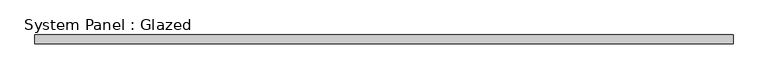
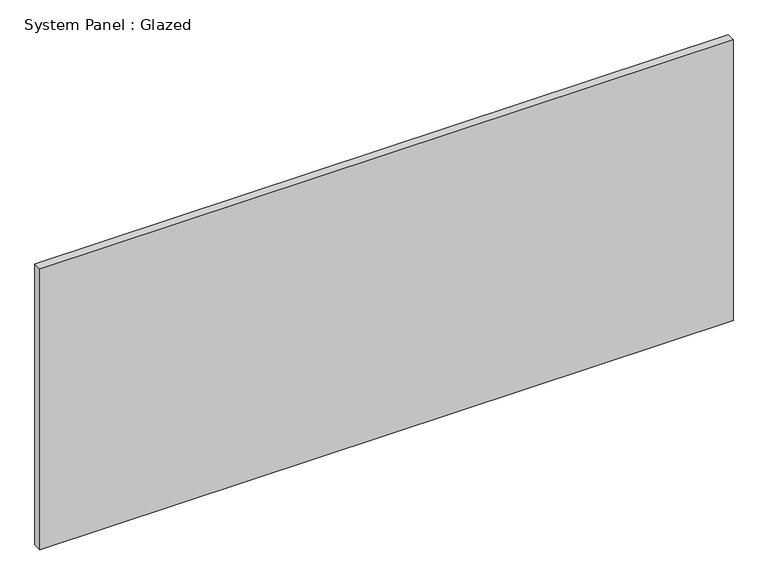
"""IFC4 building model written with IfcOpenShell, lengths in millimetres: plate geometry, System Panel : Glazed."""

from ifc_helpers import new_model, si_unit, origin, origin_with_axes, place, context, project, spatial, polyline, outline, extrude, source, transform, mapped, element, save


def system_panel_glazed_76019dd7(model_context):
    return source(origin(), model_context, "Body", "SweptSolid", [
        extrude(outline(polyline([(1016.0, 19.05), (-1016.0, 19.05), (-1016.0, 44.45), (1016.0, 44.45), (1016.0, 19.05)])), origin_with_axes(), (0.0, 0.0, 1.0), 869.95),
    ])


if __name__ == "__main__":
    model = new_model("IFC4")
    model_context = context("Model", 3, world=origin())
    ifc_project = project(units=[si_unit("LENGTHUNIT", "METRE", prefix="MILLI")], contexts=[model_context])
    site = spatial("IfcSite", under=ifc_project)
    building = spatial("IfcBuilding", under=site)
    placement = place(None, origin())
    system_panel_glazed_shape = system_panel_glazed_76019dd7(model_context)
    element("IfcPlate", 1, ObjectType="System Panel : Glazed", at=placement, inside=building, context=model_context, shape_type="MappedRepresentation", body=[
        mapped(system_panel_glazed_shape, transform((0.0, 0.0, 0.0), x_axis=(1.0, 0.0, 0.0), y_axis=(0.0, 1.0, 0.0), z_axis=(0.0, 0.0, 1.0))),
    ])
    save(model, "model.ifc")
